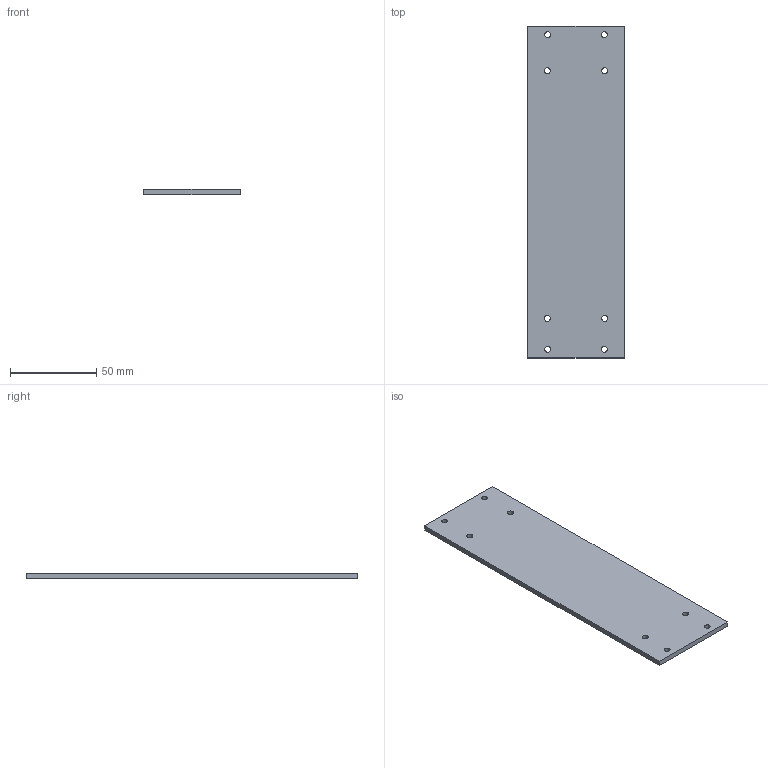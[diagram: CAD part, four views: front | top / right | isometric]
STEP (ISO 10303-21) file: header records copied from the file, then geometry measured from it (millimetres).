
FILE_DESCRIPTION(('FreeCAD Model'),'2;1');
FILE_NAME('Open CASCADE Shape Model','2025-01-25T13:21:58',(''),(''), 'Open CASCADE STEP processor 7.6','FreeCAD','Unknown');
FILE_SCHEMA(('AUTOMOTIVE_DESIGN { 1 0 10303 214 1 1 1 1 }'));
Length unit declared in the file: millimetre
Products named in the file (1): SideR
Bounding box: 56 x 193 x 3 mm (x, y, z)
Volume: 32205.9 mm3; surface area: 23221 mm2
Topology: 1 solids, 1 shells, 14 faces, 36 edges, 24 vertices
Faces by surface type: cylinder 8, plane 6
Full cylindrical faces by diameter (mm): 3.3 x4, 3.5 x4
Entity records: 490 total; most frequent: DIRECTION 82, CARTESIAN_POINT 75, ORIENTED_EDGE 72, EDGE_CURVE 36, AXIS2_PLACEMENT_3D 31, FACE_BOUND 30, EDGE_LOOP 30, VERTEX_POINT 24
